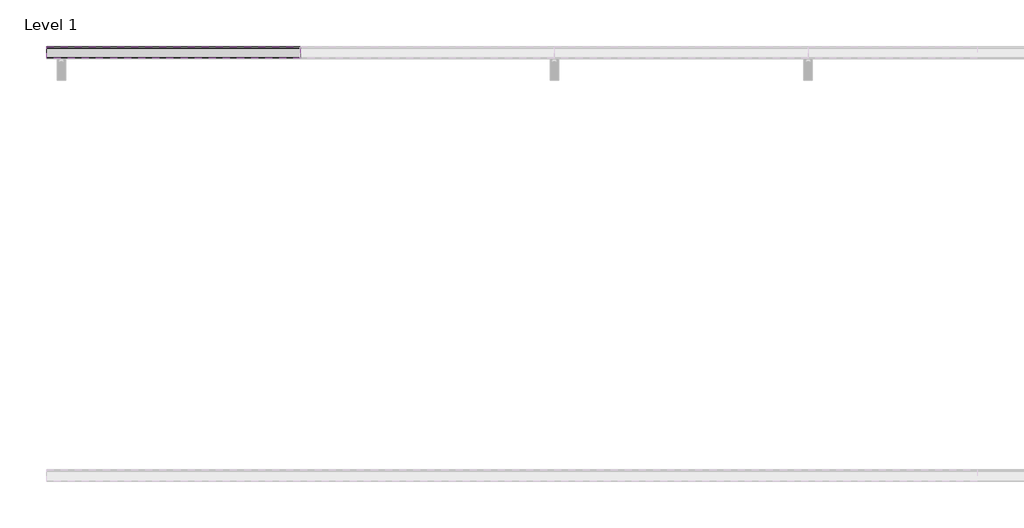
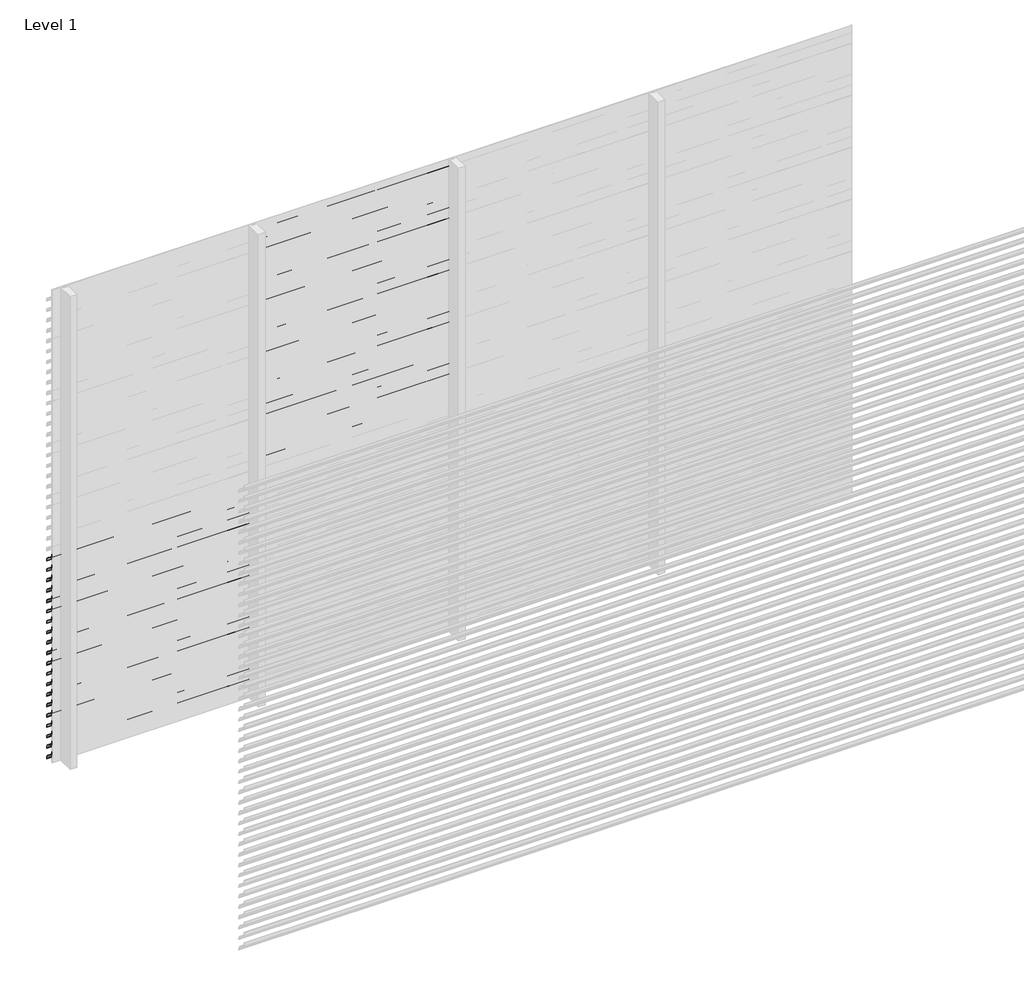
# One storey, part 139 of 540: 43 proxies.
"""IFC4 building model written with IfcOpenShell, lengths in millimetres."""

from ifc_helpers import new_model, si_unit, point, frame, frame_2d, origin, place, context, project, spatial, polyline, circle_curve, trimmed, segment, composite_curve, outline, extrude, element, save

model = new_model("IFC4")

# Units and contexts
model_context = context("Model", 3, world=origin())
ifc_project = project(units=[si_unit("LENGTHUNIT", "METRE", prefix="MILLI")], contexts=[model_context])

# Site, building, storey
site = spatial("IfcSite", under=ifc_project)
building = spatial("IfcBuilding", under=site)
storey = spatial("IfcBuildingStorey", under=building, Name="Level 1", Elevation=0.0)

# Proxies
placement = place(None, origin())
element("IfcBuildingElementProxy", 1, Name="Wall Sweeps", at=placement, inside=storey, context=model_context, shape_type="SweptSolid", body=[
    extrude(outline(composite_curve([segment(trimmed(circle_curve(frame_2d((29013.609548, 1249.7676769)), 26.4944656), [point((29030.5717655, 1270.1205608))], [point((29040.0540136, 1251.3946208))], False, "CARTESIAN"), True, "CONTINUOUS"), segment(polyline([(29040.0540136, 1251.3946208), (29040.0540136, 1243.5), (29038.8040136, 1244.2216933), (29038.8040136, 1249.7676769)]), True, "CONTINUOUS"), segment(trimmed(circle_curve(frame_2d((29013.609548, 1249.7676769)), 25.1944656), [point((29038.8040136, 1249.7676769))], [point((29029.7815085, 1269.086807))], True, "CARTESIAN"), True, "CONTINUOUS"), segment(polyline([(29029.7815085, 1269.086807), (28985.0540136, 1300.3158044), (28985.0540136, 1320.0), (28986.3040136, 1320.0), (28986.3040136, 1301.0285629), (29030.5717655, 1270.1205608)]), True, "CONTINUOUS")], self_intersect=False)), frame((89466.6208097, 0.0, 0.0), z_axis=(1.0, 0.0, 0.0), x_axis=(0.0, 1.0, 0.0)), (0.0, 0.0, 1.0), 1200.0000002),
])
element("IfcBuildingElementProxy", 2, Name="Wall Sweeps", at=placement, inside=storey, context=model_context, shape_type="SweptSolid", body=[
    extrude(outline(composite_curve([segment(trimmed(circle_curve(frame_2d((29013.609548, 1183.7676769)), 26.4944656), [point((29030.5717655, 1204.1205608))], [point((29040.0540136, 1185.3946208))], False, "CARTESIAN"), True, "CONTINUOUS"), segment(polyline([(29040.0540136, 1185.3946208), (29040.0540136, 1177.5), (29038.8040136, 1178.2216933), (29038.8040136, 1183.7676769)]), True, "CONTINUOUS"), segment(trimmed(circle_curve(frame_2d((29013.609548, 1183.7676769)), 25.1944656), [point((29038.8040136, 1183.7676769))], [point((29029.7815085, 1203.086807))], True, "CARTESIAN"), True, "CONTINUOUS"), segment(polyline([(29029.7815085, 1203.086807), (28985.0540136, 1234.3158044), (28985.0540136, 1254.0), (28986.3040136, 1254.0), (28986.3040136, 1235.0285629), (29030.5717655, 1204.1205608)]), True, "CONTINUOUS")], self_intersect=False)), frame((89466.6208097, 0.0, 0.0), z_axis=(1.0, 0.0, 0.0), x_axis=(0.0, 1.0, 0.0)), (0.0, 0.0, 1.0), 1200.0000002),
])
element("IfcBuildingElementProxy", 3, Name="Wall Sweeps", at=placement, inside=storey, context=model_context, shape_type="SweptSolid", body=[
    extrude(outline(composite_curve([segment(trimmed(circle_curve(frame_2d((29013.609548, 1117.7676769)), 26.4944656), [point((29030.5717655, 1138.1205608))], [point((29040.0540136, 1119.3946208))], False, "CARTESIAN"), True, "CONTINUOUS"), segment(polyline([(29040.0540136, 1119.3946208), (29040.0540136, 1111.5), (29038.8040136, 1112.2216933), (29038.8040136, 1117.7676769)]), True, "CONTINUOUS"), segment(trimmed(circle_curve(frame_2d((29013.609548, 1117.7676769)), 25.1944656), [point((29038.8040136, 1117.7676769))], [point((29029.7815085, 1137.086807))], True, "CARTESIAN"), True, "CONTINUOUS"), segment(polyline([(29029.7815085, 1137.086807), (28985.0540136, 1168.3158044), (28985.0540136, 1188.0), (28986.3040136, 1188.0), (28986.3040136, 1169.0285629), (29030.5717655, 1138.1205608)]), True, "CONTINUOUS")], self_intersect=False)), frame((89466.6208097, 0.0, 0.0), z_axis=(1.0, 0.0, 0.0), x_axis=(0.0, 1.0, 0.0)), (0.0, 0.0, 1.0), 1200.0000002),
])
element("IfcBuildingElementProxy", 4, Name="Wall Sweeps", at=placement, inside=storey, context=model_context, shape_type="SweptSolid", body=[
    extrude(outline(composite_curve([segment(trimmed(circle_curve(frame_2d((29013.609548, 1051.7676769)), 26.4944656), [point((29030.5717655, 1072.1205608))], [point((29040.0540136, 1053.3946208))], False, "CARTESIAN"), True, "CONTINUOUS"), segment(polyline([(29040.0540136, 1053.3946208), (29040.0540136, 1045.5), (29038.8040136, 1046.2216933), (29038.8040136, 1051.7676769)]), True, "CONTINUOUS"), segment(trimmed(circle_curve(frame_2d((29013.609548, 1051.7676769)), 25.1944656), [point((29038.8040136, 1051.7676769))], [point((29029.7815085, 1071.086807))], True, "CARTESIAN"), True, "CONTINUOUS"), segment(polyline([(29029.7815085, 1071.086807), (28985.0540136, 1102.3158044), (28985.0540136, 1122.0), (28986.3040136, 1122.0), (28986.3040136, 1103.0285629), (29030.5717655, 1072.1205608)]), True, "CONTINUOUS")], self_intersect=False)), frame((89466.6208097, 0.0, 0.0), z_axis=(1.0, 0.0, 0.0), x_axis=(0.0, 1.0, 0.0)), (0.0, 0.0, 1.0), 1200.0000002),
])
element("IfcBuildingElementProxy", 5, Name="Wall Sweeps", at=placement, inside=storey, context=model_context, shape_type="SweptSolid", body=[
    extrude(outline(composite_curve([segment(trimmed(circle_curve(frame_2d((29013.609548, 985.7676769)), 26.4944656), [point((29030.5717655, 1006.1205608))], [point((29040.0540136, 987.3946208))], False, "CARTESIAN"), True, "CONTINUOUS"), segment(polyline([(29040.0540136, 987.3946208), (29040.0540136, 979.5), (29038.8040136, 980.2216933), (29038.8040136, 985.7676769)]), True, "CONTINUOUS"), segment(trimmed(circle_curve(frame_2d((29013.609548, 985.7676769)), 25.1944656), [point((29038.8040136, 985.7676769))], [point((29029.7815085, 1005.086807))], True, "CARTESIAN"), True, "CONTINUOUS"), segment(polyline([(29029.7815085, 1005.086807), (28985.0540136, 1036.3158044), (28985.0540136, 1056.0), (28986.3040136, 1056.0), (28986.3040136, 1037.0285629), (29030.5717655, 1006.1205608)]), True, "CONTINUOUS")], self_intersect=False)), frame((89466.6208097, 0.0, 0.0), z_axis=(1.0, 0.0, 0.0), x_axis=(0.0, 1.0, 0.0)), (0.0, 0.0, 1.0), 1200.0000002),
])
element("IfcBuildingElementProxy", 6, Name="Wall Sweeps", at=placement, inside=storey, context=model_context, shape_type="SweptSolid", body=[
    extrude(outline(composite_curve([segment(trimmed(circle_curve(frame_2d((29013.609548, 919.7676769)), 26.4944656), [point((29030.5717655, 940.1205608))], [point((29040.0540136, 921.3946208))], False, "CARTESIAN"), True, "CONTINUOUS"), segment(polyline([(29040.0540136, 921.3946208), (29040.0540136, 913.5), (29038.8040136, 914.2216933), (29038.8040136, 919.7676769)]), True, "CONTINUOUS"), segment(trimmed(circle_curve(frame_2d((29013.609548, 919.7676769)), 25.1944656), [point((29038.8040136, 919.7676769))], [point((29029.7815085, 939.086807))], True, "CARTESIAN"), True, "CONTINUOUS"), segment(polyline([(29029.7815085, 939.086807), (28985.0540136, 970.3158044), (28985.0540136, 990.0), (28986.3040136, 990.0), (28986.3040136, 971.0285629), (29030.5717655, 940.1205608)]), True, "CONTINUOUS")], self_intersect=False)), frame((89466.6208097, 0.0, 0.0), z_axis=(1.0, 0.0, 0.0), x_axis=(0.0, 1.0, 0.0)), (0.0, 0.0, 1.0), 1200.0000002),
])
element("IfcBuildingElementProxy", 7, Name="Wall Sweeps", at=placement, inside=storey, context=model_context, shape_type="SweptSolid", body=[
    extrude(outline(composite_curve([segment(trimmed(circle_curve(frame_2d((29013.609548, 853.7676769)), 26.4944656), [point((29030.5717655, 874.1205608))], [point((29040.0540136, 855.3946208))], False, "CARTESIAN"), True, "CONTINUOUS"), segment(polyline([(29040.0540136, 855.3946208), (29040.0540136, 847.5), (29038.8040136, 848.2216933), (29038.8040136, 853.7676769)]), True, "CONTINUOUS"), segment(trimmed(circle_curve(frame_2d((29013.609548, 853.7676769)), 25.1944656), [point((29038.8040136, 853.7676769))], [point((29029.7815085, 873.086807))], True, "CARTESIAN"), True, "CONTINUOUS"), segment(polyline([(29029.7815085, 873.086807), (28985.0540136, 904.3158044), (28985.0540136, 924.0), (28986.3040136, 924.0), (28986.3040136, 905.0285629), (29030.5717655, 874.1205608)]), True, "CONTINUOUS")], self_intersect=False)), frame((89466.6208097, 0.0, 0.0), z_axis=(1.0, 0.0, 0.0), x_axis=(0.0, 1.0, 0.0)), (0.0, 0.0, 1.0), 1200.0000002),
])
element("IfcBuildingElementProxy", 8, Name="Wall Sweeps", at=placement, inside=storey, context=model_context, shape_type="SweptSolid", body=[
    extrude(outline(composite_curve([segment(trimmed(circle_curve(frame_2d((29013.609548, 787.7676769)), 26.4944656), [point((29030.5717655, 808.1205608))], [point((29040.0540136, 789.3946208))], False, "CARTESIAN"), True, "CONTINUOUS"), segment(polyline([(29040.0540136, 789.3946208), (29040.0540136, 781.5), (29038.8040136, 782.2216933), (29038.8040136, 787.7676769)]), True, "CONTINUOUS"), segment(trimmed(circle_curve(frame_2d((29013.609548, 787.7676769)), 25.1944656), [point((29038.8040136, 787.7676769))], [point((29029.7815085, 807.086807))], True, "CARTESIAN"), True, "CONTINUOUS"), segment(polyline([(29029.7815085, 807.086807), (28985.0540136, 838.3158044), (28985.0540136, 858.0), (28986.3040136, 858.0), (28986.3040136, 839.0285629), (29030.5717655, 808.1205608)]), True, "CONTINUOUS")], self_intersect=False)), frame((89466.6208097, 0.0, 0.0), z_axis=(1.0, 0.0, 0.0), x_axis=(0.0, 1.0, 0.0)), (0.0, 0.0, 1.0), 1200.0000002),
])
element("IfcBuildingElementProxy", 9, Name="Wall Sweeps", at=placement, inside=storey, context=model_context, shape_type="SweptSolid", body=[
    extrude(outline(composite_curve([segment(trimmed(circle_curve(frame_2d((29013.609548, 721.7676769)), 26.4944656), [point((29030.5717655, 742.1205608))], [point((29040.0540136, 723.3946208))], False, "CARTESIAN"), True, "CONTINUOUS"), segment(polyline([(29040.0540136, 723.3946208), (29040.0540136, 715.5), (29038.8040136, 716.2216933), (29038.8040136, 721.7676769)]), True, "CONTINUOUS"), segment(trimmed(circle_curve(frame_2d((29013.609548, 721.7676769)), 25.1944656), [point((29038.8040136, 721.7676769))], [point((29029.7815085, 741.086807))], True, "CARTESIAN"), True, "CONTINUOUS"), segment(polyline([(29029.7815085, 741.086807), (28985.0540136, 772.3158044), (28985.0540136, 792.0), (28986.3040136, 792.0), (28986.3040136, 773.0285629), (29030.5717655, 742.1205608)]), True, "CONTINUOUS")], self_intersect=False)), frame((89466.6208097, 0.0, 0.0), z_axis=(1.0, 0.0, 0.0), x_axis=(0.0, 1.0, 0.0)), (0.0, 0.0, 1.0), 1200.0000002),
])
element("IfcBuildingElementProxy", 10, Name="Wall Sweeps", at=placement, inside=storey, context=model_context, shape_type="SweptSolid", body=[
    extrude(outline(composite_curve([segment(trimmed(circle_curve(frame_2d((29013.609548, 655.7676769)), 26.4944656), [point((29030.5717655, 676.1205608))], [point((29040.0540136, 657.3946208))], False, "CARTESIAN"), True, "CONTINUOUS"), segment(polyline([(29040.0540136, 657.3946208), (29040.0540136, 649.5), (29038.8040136, 650.2216933), (29038.8040136, 655.7676769)]), True, "CONTINUOUS"), segment(trimmed(circle_curve(frame_2d((29013.609548, 655.7676769)), 25.1944656), [point((29038.8040136, 655.7676769))], [point((29029.7815085, 675.086807))], True, "CARTESIAN"), True, "CONTINUOUS"), segment(polyline([(29029.7815085, 675.086807), (28985.0540136, 706.3158044), (28985.0540136, 726.0), (28986.3040136, 726.0), (28986.3040136, 707.0285629), (29030.5717655, 676.1205608)]), True, "CONTINUOUS")], self_intersect=False)), frame((89466.6208097, 0.0, 0.0), z_axis=(1.0, 0.0, 0.0), x_axis=(0.0, 1.0, 0.0)), (0.0, 0.0, 1.0), 1200.0000002),
])
element("IfcBuildingElementProxy", 11, Name="Wall Sweeps", at=placement, inside=storey, context=model_context, shape_type="SweptSolid", body=[
    extrude(outline(composite_curve([segment(trimmed(circle_curve(frame_2d((29013.609548, 589.7676769)), 26.4944656), [point((29030.5717655, 610.1205608))], [point((29040.0540136, 591.3946208))], False, "CARTESIAN"), True, "CONTINUOUS"), segment(polyline([(29040.0540136, 591.3946208), (29040.0540136, 583.5), (29038.8040136, 584.2216933), (29038.8040136, 589.7676769)]), True, "CONTINUOUS"), segment(trimmed(circle_curve(frame_2d((29013.609548, 589.7676769)), 25.1944656), [point((29038.8040136, 589.7676769))], [point((29029.7815085, 609.086807))], True, "CARTESIAN"), True, "CONTINUOUS"), segment(polyline([(29029.7815085, 609.086807), (28985.0540136, 640.3158044), (28985.0540136, 660.0), (28986.3040136, 660.0), (28986.3040136, 641.0285629), (29030.5717655, 610.1205608)]), True, "CONTINUOUS")], self_intersect=False)), frame((89466.6208097, 0.0, 0.0), z_axis=(1.0, 0.0, 0.0), x_axis=(0.0, 1.0, 0.0)), (0.0, 0.0, 1.0), 1200.0000002),
])
element("IfcBuildingElementProxy", 12, Name="Wall Sweeps", at=placement, inside=storey, context=model_context, shape_type="SweptSolid", body=[
    extrude(outline(composite_curve([segment(trimmed(circle_curve(frame_2d((29013.609548, 523.7676769)), 26.4944656), [point((29030.5717655, 544.1205608))], [point((29040.0540136, 525.3946208))], False, "CARTESIAN"), True, "CONTINUOUS"), segment(polyline([(29040.0540136, 525.3946208), (29040.0540136, 517.5), (29038.8040136, 518.2216933), (29038.8040136, 523.7676769)]), True, "CONTINUOUS"), segment(trimmed(circle_curve(frame_2d((29013.609548, 523.7676769)), 25.1944656), [point((29038.8040136, 523.7676769))], [point((29029.7815085, 543.086807))], True, "CARTESIAN"), True, "CONTINUOUS"), segment(polyline([(29029.7815085, 543.086807), (28985.0540136, 574.3158044), (28985.0540136, 594.0), (28986.3040136, 594.0), (28986.3040136, 575.0285629), (29030.5717655, 544.1205608)]), True, "CONTINUOUS")], self_intersect=False)), frame((89466.6208097, 0.0, 0.0), z_axis=(1.0, 0.0, 0.0), x_axis=(0.0, 1.0, 0.0)), (0.0, 0.0, 1.0), 1200.0000002),
])
element("IfcBuildingElementProxy", 13, Name="Wall Sweeps", at=placement, inside=storey, context=model_context, shape_type="SweptSolid", body=[
    extrude(outline(composite_curve([segment(trimmed(circle_curve(frame_2d((29013.609548, 457.7676769)), 26.4944656), [point((29030.5717655, 478.1205608))], [point((29040.0540136, 459.3946208))], False, "CARTESIAN"), True, "CONTINUOUS"), segment(polyline([(29040.0540136, 459.3946208), (29040.0540136, 451.5), (29038.8040136, 452.2216933), (29038.8040136, 457.7676769)]), True, "CONTINUOUS"), segment(trimmed(circle_curve(frame_2d((29013.609548, 457.7676769)), 25.1944656), [point((29038.8040136, 457.7676769))], [point((29029.7815085, 477.086807))], True, "CARTESIAN"), True, "CONTINUOUS"), segment(polyline([(29029.7815085, 477.086807), (28985.0540136, 508.3158044), (28985.0540136, 528.0), (28986.3040136, 528.0), (28986.3040136, 509.0285629), (29030.5717655, 478.1205608)]), True, "CONTINUOUS")], self_intersect=False)), frame((89466.6208097, 0.0, 0.0), z_axis=(1.0, 0.0, 0.0), x_axis=(0.0, 1.0, 0.0)), (0.0, 0.0, 1.0), 1200.0000002),
])
element("IfcBuildingElementProxy", 14, Name="Wall Sweeps", at=placement, inside=storey, context=model_context, shape_type="SweptSolid", body=[
    extrude(outline(composite_curve([segment(trimmed(circle_curve(frame_2d((29013.609548, 391.7676769)), 26.4944656), [point((29030.5717655, 412.1205608))], [point((29040.0540136, 393.3946208))], False, "CARTESIAN"), True, "CONTINUOUS"), segment(polyline([(29040.0540136, 393.3946208), (29040.0540136, 385.5), (29038.8040136, 386.2216933), (29038.8040136, 391.7676769)]), True, "CONTINUOUS"), segment(trimmed(circle_curve(frame_2d((29013.609548, 391.7676769)), 25.1944656), [point((29038.8040136, 391.7676769))], [point((29029.7815085, 411.086807))], True, "CARTESIAN"), True, "CONTINUOUS"), segment(polyline([(29029.7815085, 411.086807), (28985.0540136, 442.3158044), (28985.0540136, 462.0), (28986.3040136, 462.0), (28986.3040136, 443.0285629), (29030.5717655, 412.1205608)]), True, "CONTINUOUS")], self_intersect=False)), frame((89466.6208097, 0.0, 0.0), z_axis=(1.0, 0.0, 0.0), x_axis=(0.0, 1.0, 0.0)), (0.0, 0.0, 1.0), 1200.0000002),
])
element("IfcBuildingElementProxy", 15, Name="Wall Sweeps", at=placement, inside=storey, context=model_context, shape_type="SweptSolid", body=[
    extrude(outline(composite_curve([segment(trimmed(circle_curve(frame_2d((29013.609548, 325.7676769)), 26.4944656), [point((29030.5717655, 346.1205608))], [point((29040.0540136, 327.3946208))], False, "CARTESIAN"), True, "CONTINUOUS"), segment(polyline([(29040.0540136, 327.3946208), (29040.0540136, 319.5), (29038.8040136, 320.2216933), (29038.8040136, 325.7676769)]), True, "CONTINUOUS"), segment(trimmed(circle_curve(frame_2d((29013.609548, 325.7676769)), 25.1944656), [point((29038.8040136, 325.7676769))], [point((29029.7815085, 345.086807))], True, "CARTESIAN"), True, "CONTINUOUS"), segment(polyline([(29029.7815085, 345.086807), (28985.0540136, 376.3158044), (28985.0540136, 396.0), (28986.3040136, 396.0), (28986.3040136, 377.0285629), (29030.5717655, 346.1205608)]), True, "CONTINUOUS")], self_intersect=False)), frame((89466.6208097, 0.0, 0.0), z_axis=(1.0, 0.0, 0.0), x_axis=(0.0, 1.0, 0.0)), (0.0, 0.0, 1.0), 1200.0000002),
])
element("IfcBuildingElementProxy", 16, Name="Wall Sweeps", at=placement, inside=storey, context=model_context, shape_type="SweptSolid", body=[
    extrude(outline(composite_curve([segment(trimmed(circle_curve(frame_2d((29013.609548, 259.7676769)), 26.4944656), [point((29030.5717655, 280.1205608))], [point((29040.0540136, 261.3946208))], False, "CARTESIAN"), True, "CONTINUOUS"), segment(polyline([(29040.0540136, 261.3946208), (29040.0540136, 253.5), (29038.8040136, 254.2216933), (29038.8040136, 259.7676769)]), True, "CONTINUOUS"), segment(trimmed(circle_curve(frame_2d((29013.609548, 259.7676769)), 25.1944656), [point((29038.8040136, 259.7676769))], [point((29029.7815085, 279.086807))], True, "CARTESIAN"), True, "CONTINUOUS"), segment(polyline([(29029.7815085, 279.086807), (28985.0540136, 310.3158044), (28985.0540136, 330.0), (28986.3040136, 330.0), (28986.3040136, 311.0285629), (29030.5717655, 280.1205608)]), True, "CONTINUOUS")], self_intersect=False)), frame((89466.6208097, 0.0, 0.0), z_axis=(1.0, 0.0, 0.0), x_axis=(0.0, 1.0, 0.0)), (0.0, 0.0, 1.0), 1200.0000002),
])
element("IfcBuildingElementProxy", 17, Name="Wall Sweeps", at=placement, inside=storey, context=model_context, shape_type="SweptSolid", body=[
    extrude(outline(composite_curve([segment(trimmed(circle_curve(frame_2d((29013.609548, 193.7676769)), 26.4944656), [point((29030.5717655, 214.1205608))], [point((29040.0540136, 195.3946208))], False, "CARTESIAN"), True, "CONTINUOUS"), segment(polyline([(29040.0540136, 195.3946208), (29040.0540136, 187.5), (29038.8040136, 188.2216933), (29038.8040136, 193.7676769)]), True, "CONTINUOUS"), segment(trimmed(circle_curve(frame_2d((29013.609548, 193.7676769)), 25.1944656), [point((29038.8040136, 193.7676769))], [point((29029.7815085, 213.086807))], True, "CARTESIAN"), True, "CONTINUOUS"), segment(polyline([(29029.7815085, 213.086807), (28985.0540136, 244.3158044), (28985.0540136, 264.0), (28986.3040136, 264.0), (28986.3040136, 245.0285629), (29030.5717655, 214.1205608)]), True, "CONTINUOUS")], self_intersect=False)), frame((89466.6208097, 0.0, 0.0), z_axis=(1.0, 0.0, 0.0), x_axis=(0.0, 1.0, 0.0)), (0.0, 0.0, 1.0), 1200.0000002),
])
element("IfcBuildingElementProxy", 18, Name="Wall Sweeps", at=placement, inside=storey, context=model_context, shape_type="SweptSolid", body=[
    extrude(outline(composite_curve([segment(trimmed(circle_curve(frame_2d((29013.609548, 127.7676769)), 26.4944656), [point((29030.5717655, 148.1205608))], [point((29040.0540136, 129.3946208))], False, "CARTESIAN"), True, "CONTINUOUS"), segment(polyline([(29040.0540136, 129.3946208), (29040.0540136, 121.5), (29038.8040136, 122.2216933), (29038.8040136, 127.7676769)]), True, "CONTINUOUS"), segment(trimmed(circle_curve(frame_2d((29013.609548, 127.7676769)), 25.1944656), [point((29038.8040136, 127.7676769))], [point((29029.7815085, 147.086807))], True, "CARTESIAN"), True, "CONTINUOUS"), segment(polyline([(29029.7815085, 147.086807), (28985.0540136, 178.3158044), (28985.0540136, 198.0), (28986.3040136, 198.0), (28986.3040136, 179.0285629), (29030.5717655, 148.1205608)]), True, "CONTINUOUS")], self_intersect=False)), frame((89466.6208097, 0.0, 0.0), z_axis=(1.0, 0.0, 0.0), x_axis=(0.0, 1.0, 0.0)), (0.0, 0.0, 1.0), 1200.0000002),
])
element("IfcBuildingElementProxy", 19, Name="Wall Sweeps", at=placement, inside=storey, context=model_context, shape_type="SweptSolid", body=[
    extrude(outline(composite_curve([segment(trimmed(circle_curve(frame_2d((29013.609548, 61.7676769)), 26.4944656), [point((29030.5717655, 82.1205608))], [point((29040.0540136, 63.3946208))], False, "CARTESIAN"), True, "CONTINUOUS"), segment(polyline([(29040.0540136, 63.3946208), (29040.0540136, 55.5), (29038.8040136, 56.2216933), (29038.8040136, 61.7676769)]), True, "CONTINUOUS"), segment(trimmed(circle_curve(frame_2d((29013.609548, 61.7676769)), 25.1944656), [point((29038.8040136, 61.7676769))], [point((29029.7815085, 81.086807))], True, "CARTESIAN"), True, "CONTINUOUS"), segment(polyline([(29029.7815085, 81.086807), (28985.0540136, 112.3158044), (28985.0540136, 132.0), (28986.3040136, 132.0), (28986.3040136, 113.0285629), (29030.5717655, 82.1205608)]), True, "CONTINUOUS")], self_intersect=False)), frame((89466.6208097, 0.0, 0.0), z_axis=(1.0, 0.0, 0.0), x_axis=(0.0, 1.0, 0.0)), (0.0, 0.0, 1.0), 1200.0000002),
])
element("IfcBuildingElementProxy", 20, Name="Wall Sweeps", at=placement, inside=storey, context=model_context, shape_type="SweptSolid", body=[
    extrude(outline(composite_curve([segment(trimmed(circle_curve(frame_2d((29013.609548, -4.2323231)), 26.4944656), [point((29030.5717655, 16.1205608))], [point((29040.0540136, -2.6053792))], False, "CARTESIAN"), True, "CONTINUOUS"), segment(polyline([(29040.0540136, -2.6053792), (29040.0540136, -10.5), (29038.8040136, -9.7783067), (29038.8040136, -4.2323231)]), True, "CONTINUOUS"), segment(trimmed(circle_curve(frame_2d((29013.609548, -4.2323231)), 25.1944656), [point((29038.8040136, -4.2323231))], [point((29029.7815085, 15.086807))], True, "CARTESIAN"), True, "CONTINUOUS"), segment(polyline([(29029.7815085, 15.086807), (28985.0540136, 46.3158044), (28985.0540136, 66.0), (28986.3040136, 66.0), (28986.3040136, 47.0285629), (29030.5717655, 16.1205608)]), True, "CONTINUOUS")], self_intersect=False)), frame((89466.6208097, 0.0, 0.0), z_axis=(1.0, 0.0, 0.0), x_axis=(0.0, 1.0, 0.0)), (0.0, 0.0, 1.0), 1200.0000002),
])
element("IfcBuildingElementProxy", 21, Name="Wall Sweeps", at=placement, inside=storey, context=model_context, shape_type="SweptSolid", body=[
    extrude(outline(composite_curve([segment(trimmed(circle_curve(frame_2d((29013.609548, 2899.7676769)), 26.4944656), [point((29030.5717655, 2920.1205608))], [point((29040.0540136, 2901.3946208))], False, "CARTESIAN"), True, "CONTINUOUS"), segment(polyline([(29040.0540136, 2901.3946208), (29040.0540136, 2893.5), (29038.8040136, 2894.2216933), (29038.8040136, 2899.7676769)]), True, "CONTINUOUS"), segment(trimmed(circle_curve(frame_2d((29013.609548, 2899.7676769)), 25.1944656), [point((29038.8040136, 2899.7676769))], [point((29029.7815085, 2919.086807))], True, "CARTESIAN"), True, "CONTINUOUS"), segment(polyline([(29029.7815085, 2919.086807), (28985.0540136, 2950.3158044), (28985.0540136, 2970.0), (28986.3040136, 2970.0), (28986.3040136, 2951.0285629), (29030.5717655, 2920.1205608)]), True, "CONTINUOUS")], self_intersect=False)), frame((90666.6208099, 0.0, 0.0), z_axis=(1.0, 0.0, 0.0), x_axis=(0.0, 1.0, 0.0)), (0.0, 0.0, 1.0), 1199.9999999),
])
element("IfcBuildingElementProxy", 22, Name="Wall Sweeps", at=placement, inside=storey, context=model_context, shape_type="SweptSolid", body=[
    extrude(outline(composite_curve([segment(trimmed(circle_curve(frame_2d((29013.609548, 2833.7676769)), 26.4944656), [point((29030.5717655, 2854.1205608))], [point((29040.0540136, 2835.3946208))], False, "CARTESIAN"), True, "CONTINUOUS"), segment(polyline([(29040.0540136, 2835.3946208), (29040.0540136, 2827.5), (29038.8040136, 2828.2216933), (29038.8040136, 2833.7676769)]), True, "CONTINUOUS"), segment(trimmed(circle_curve(frame_2d((29013.609548, 2833.7676769)), 25.1944656), [point((29038.8040136, 2833.7676769))], [point((29029.7815085, 2853.086807))], True, "CARTESIAN"), True, "CONTINUOUS"), segment(polyline([(29029.7815085, 2853.086807), (28985.0540136, 2884.3158044), (28985.0540136, 2904.0), (28986.3040136, 2904.0), (28986.3040136, 2885.0285629), (29030.5717655, 2854.1205608)]), True, "CONTINUOUS")], self_intersect=False)), frame((90666.6208099, 0.0, 0.0), z_axis=(1.0, 0.0, 0.0), x_axis=(0.0, 1.0, 0.0)), (0.0, 0.0, 1.0), 1199.9999999),
])
element("IfcBuildingElementProxy", 23, Name="Wall Sweeps", at=placement, inside=storey, context=model_context, shape_type="SweptSolid", body=[
    extrude(outline(composite_curve([segment(trimmed(circle_curve(frame_2d((29013.609548, 2767.7676769)), 26.4944656), [point((29030.5717655, 2788.1205608))], [point((29040.0540136, 2769.3946208))], False, "CARTESIAN"), True, "CONTINUOUS"), segment(polyline([(29040.0540136, 2769.3946208), (29040.0540136, 2761.5), (29038.8040136, 2762.2216933), (29038.8040136, 2767.7676769)]), True, "CONTINUOUS"), segment(trimmed(circle_curve(frame_2d((29013.609548, 2767.7676769)), 25.1944656), [point((29038.8040136, 2767.7676769))], [point((29029.7815085, 2787.086807))], True, "CARTESIAN"), True, "CONTINUOUS"), segment(polyline([(29029.7815085, 2787.086807), (28985.0540136, 2818.3158044), (28985.0540136, 2838.0), (28986.3040136, 2838.0), (28986.3040136, 2819.0285629), (29030.5717655, 2788.1205608)]), True, "CONTINUOUS")], self_intersect=False)), frame((90666.6208099, 0.0, 0.0), z_axis=(1.0, 0.0, 0.0), x_axis=(0.0, 1.0, 0.0)), (0.0, 0.0, 1.0), 1199.9999999),
])
element("IfcBuildingElementProxy", 24, Name="Wall Sweeps", at=placement, inside=storey, context=model_context, shape_type="SweptSolid", body=[
    extrude(outline(composite_curve([segment(trimmed(circle_curve(frame_2d((29013.609548, 2701.7676769)), 26.4944656), [point((29030.5717655, 2722.1205608))], [point((29040.0540136, 2703.3946208))], False, "CARTESIAN"), True, "CONTINUOUS"), segment(polyline([(29040.0540136, 2703.3946208), (29040.0540136, 2695.5), (29038.8040136, 2696.2216933), (29038.8040136, 2701.7676769)]), True, "CONTINUOUS"), segment(trimmed(circle_curve(frame_2d((29013.609548, 2701.7676769)), 25.1944656), [point((29038.8040136, 2701.7676769))], [point((29029.7815085, 2721.086807))], True, "CARTESIAN"), True, "CONTINUOUS"), segment(polyline([(29029.7815085, 2721.086807), (28985.0540136, 2752.3158044), (28985.0540136, 2772.0), (28986.3040136, 2772.0), (28986.3040136, 2753.0285629), (29030.5717655, 2722.1205608)]), True, "CONTINUOUS")], self_intersect=False)), frame((90666.6208099, 0.0, 0.0), z_axis=(1.0, 0.0, 0.0), x_axis=(0.0, 1.0, 0.0)), (0.0, 0.0, 1.0), 1199.9999999),
])
element("IfcBuildingElementProxy", 25, Name="Wall Sweeps", at=placement, inside=storey, context=model_context, shape_type="SweptSolid", body=[
    extrude(outline(composite_curve([segment(trimmed(circle_curve(frame_2d((29013.609548, 2635.7676769)), 26.4944656), [point((29030.5717655, 2656.1205608))], [point((29040.0540136, 2637.3946208))], False, "CARTESIAN"), True, "CONTINUOUS"), segment(polyline([(29040.0540136, 2637.3946208), (29040.0540136, 2629.5), (29038.8040136, 2630.2216933), (29038.8040136, 2635.7676769)]), True, "CONTINUOUS"), segment(trimmed(circle_curve(frame_2d((29013.609548, 2635.7676769)), 25.1944656), [point((29038.8040136, 2635.7676769))], [point((29029.7815085, 2655.086807))], True, "CARTESIAN"), True, "CONTINUOUS"), segment(polyline([(29029.7815085, 2655.086807), (28985.0540136, 2686.3158044), (28985.0540136, 2706.0), (28986.3040136, 2706.0), (28986.3040136, 2687.0285629), (29030.5717655, 2656.1205608)]), True, "CONTINUOUS")], self_intersect=False)), frame((90666.6208099, 0.0, 0.0), z_axis=(1.0, 0.0, 0.0), x_axis=(0.0, 1.0, 0.0)), (0.0, 0.0, 1.0), 1199.9999999),
])
element("IfcBuildingElementProxy", 26, Name="Wall Sweeps", at=placement, inside=storey, context=model_context, shape_type="SweptSolid", body=[
    extrude(outline(composite_curve([segment(trimmed(circle_curve(frame_2d((29013.609548, 2569.7676769)), 26.4944656), [point((29030.5717655, 2590.1205608))], [point((29040.0540136, 2571.3946208))], False, "CARTESIAN"), True, "CONTINUOUS"), segment(polyline([(29040.0540136, 2571.3946208), (29040.0540136, 2563.5), (29038.8040136, 2564.2216933), (29038.8040136, 2569.7676769)]), True, "CONTINUOUS"), segment(trimmed(circle_curve(frame_2d((29013.609548, 2569.7676769)), 25.1944656), [point((29038.8040136, 2569.7676769))], [point((29029.7815085, 2589.086807))], True, "CARTESIAN"), True, "CONTINUOUS"), segment(polyline([(29029.7815085, 2589.086807), (28985.0540136, 2620.3158044), (28985.0540136, 2640.0), (28986.3040136, 2640.0), (28986.3040136, 2621.0285629), (29030.5717655, 2590.1205608)]), True, "CONTINUOUS")], self_intersect=False)), frame((90666.6208099, 0.0, 0.0), z_axis=(1.0, 0.0, 0.0), x_axis=(0.0, 1.0, 0.0)), (0.0, 0.0, 1.0), 1199.9999999),
])
element("IfcBuildingElementProxy", 27, Name="Wall Sweeps", at=placement, inside=storey, context=model_context, shape_type="SweptSolid", body=[
    extrude(outline(composite_curve([segment(trimmed(circle_curve(frame_2d((29013.609548, 2503.7676769)), 26.4944656), [point((29030.5717655, 2524.1205608))], [point((29040.0540136, 2505.3946208))], False, "CARTESIAN"), True, "CONTINUOUS"), segment(polyline([(29040.0540136, 2505.3946208), (29040.0540136, 2497.5), (29038.8040136, 2498.2216933), (29038.8040136, 2503.7676769)]), True, "CONTINUOUS"), segment(trimmed(circle_curve(frame_2d((29013.609548, 2503.7676769)), 25.1944656), [point((29038.8040136, 2503.7676769))], [point((29029.7815085, 2523.086807))], True, "CARTESIAN"), True, "CONTINUOUS"), segment(polyline([(29029.7815085, 2523.086807), (28985.0540136, 2554.3158044), (28985.0540136, 2574.0), (28986.3040136, 2574.0), (28986.3040136, 2555.0285629), (29030.5717655, 2524.1205608)]), True, "CONTINUOUS")], self_intersect=False)), frame((90666.6208099, 0.0, 0.0), z_axis=(1.0, 0.0, 0.0), x_axis=(0.0, 1.0, 0.0)), (0.0, 0.0, 1.0), 1199.9999999),
])
element("IfcBuildingElementProxy", 28, Name="Wall Sweeps", at=placement, inside=storey, context=model_context, shape_type="SweptSolid", body=[
    extrude(outline(composite_curve([segment(trimmed(circle_curve(frame_2d((29013.609548, 2437.7676769)), 26.4944656), [point((29030.5717655, 2458.1205608))], [point((29040.0540136, 2439.3946208))], False, "CARTESIAN"), True, "CONTINUOUS"), segment(polyline([(29040.0540136, 2439.3946208), (29040.0540136, 2431.5), (29038.8040136, 2432.2216933), (29038.8040136, 2437.7676769)]), True, "CONTINUOUS"), segment(trimmed(circle_curve(frame_2d((29013.609548, 2437.7676769)), 25.1944656), [point((29038.8040136, 2437.7676769))], [point((29029.7815085, 2457.086807))], True, "CARTESIAN"), True, "CONTINUOUS"), segment(polyline([(29029.7815085, 2457.086807), (28985.0540136, 2488.3158044), (28985.0540136, 2508.0), (28986.3040136, 2508.0), (28986.3040136, 2489.0285629), (29030.5717655, 2458.1205608)]), True, "CONTINUOUS")], self_intersect=False)), frame((90666.6208099, 0.0, 0.0), z_axis=(1.0, 0.0, 0.0), x_axis=(0.0, 1.0, 0.0)), (0.0, 0.0, 1.0), 1199.9999999),
])
element("IfcBuildingElementProxy", 29, Name="Wall Sweeps", at=placement, inside=storey, context=model_context, shape_type="SweptSolid", body=[
    extrude(outline(composite_curve([segment(trimmed(circle_curve(frame_2d((29013.609548, 2371.7676769)), 26.4944656), [point((29030.5717655, 2392.1205608))], [point((29040.0540136, 2373.3946208))], False, "CARTESIAN"), True, "CONTINUOUS"), segment(polyline([(29040.0540136, 2373.3946208), (29040.0540136, 2365.5), (29038.8040136, 2366.2216933), (29038.8040136, 2371.7676769)]), True, "CONTINUOUS"), segment(trimmed(circle_curve(frame_2d((29013.609548, 2371.7676769)), 25.1944656), [point((29038.8040136, 2371.7676769))], [point((29029.7815085, 2391.086807))], True, "CARTESIAN"), True, "CONTINUOUS"), segment(polyline([(29029.7815085, 2391.086807), (28985.0540136, 2422.3158044), (28985.0540136, 2442.0), (28986.3040136, 2442.0), (28986.3040136, 2423.0285629), (29030.5717655, 2392.1205608)]), True, "CONTINUOUS")], self_intersect=False)), frame((90666.6208099, 0.0, 0.0), z_axis=(1.0, 0.0, 0.0), x_axis=(0.0, 1.0, 0.0)), (0.0, 0.0, 1.0), 1199.9999999),
])
element("IfcBuildingElementProxy", 30, Name="Wall Sweeps", at=placement, inside=storey, context=model_context, shape_type="SweptSolid", body=[
    extrude(outline(composite_curve([segment(trimmed(circle_curve(frame_2d((29013.609548, 2305.7676769)), 26.4944656), [point((29030.5717655, 2326.1205608))], [point((29040.0540136, 2307.3946208))], False, "CARTESIAN"), True, "CONTINUOUS"), segment(polyline([(29040.0540136, 2307.3946208), (29040.0540136, 2299.5), (29038.8040136, 2300.2216933), (29038.8040136, 2305.7676769)]), True, "CONTINUOUS"), segment(trimmed(circle_curve(frame_2d((29013.609548, 2305.7676769)), 25.1944656), [point((29038.8040136, 2305.7676769))], [point((29029.7815085, 2325.086807))], True, "CARTESIAN"), True, "CONTINUOUS"), segment(polyline([(29029.7815085, 2325.086807), (28985.0540136, 2356.3158044), (28985.0540136, 2376.0), (28986.3040136, 2376.0), (28986.3040136, 2357.0285629), (29030.5717655, 2326.1205608)]), True, "CONTINUOUS")], self_intersect=False)), frame((90666.6208099, 0.0, 0.0), z_axis=(1.0, 0.0, 0.0), x_axis=(0.0, 1.0, 0.0)), (0.0, 0.0, 1.0), 1199.9999999),
])
element("IfcBuildingElementProxy", 31, Name="Wall Sweeps", at=placement, inside=storey, context=model_context, shape_type="SweptSolid", body=[
    extrude(outline(composite_curve([segment(trimmed(circle_curve(frame_2d((29013.609548, 2239.7676769)), 26.4944656), [point((29030.5717655, 2260.1205608))], [point((29040.0540136, 2241.3946208))], False, "CARTESIAN"), True, "CONTINUOUS"), segment(polyline([(29040.0540136, 2241.3946208), (29040.0540136, 2233.5), (29038.8040136, 2234.2216933), (29038.8040136, 2239.7676769)]), True, "CONTINUOUS"), segment(trimmed(circle_curve(frame_2d((29013.609548, 2239.7676769)), 25.1944656), [point((29038.8040136, 2239.7676769))], [point((29029.7815085, 2259.086807))], True, "CARTESIAN"), True, "CONTINUOUS"), segment(polyline([(29029.7815085, 2259.086807), (28985.0540136, 2290.3158044), (28985.0540136, 2310.0), (28986.3040136, 2310.0), (28986.3040136, 2291.0285629), (29030.5717655, 2260.1205608)]), True, "CONTINUOUS")], self_intersect=False)), frame((90666.6208099, 0.0, 0.0), z_axis=(1.0, 0.0, 0.0), x_axis=(0.0, 1.0, 0.0)), (0.0, 0.0, 1.0), 1199.9999999),
])
element("IfcBuildingElementProxy", 32, Name="Wall Sweeps", at=placement, inside=storey, context=model_context, shape_type="SweptSolid", body=[
    extrude(outline(composite_curve([segment(trimmed(circle_curve(frame_2d((29013.609548, 2173.7676769)), 26.4944656), [point((29030.5717655, 2194.1205608))], [point((29040.0540136, 2175.3946208))], False, "CARTESIAN"), True, "CONTINUOUS"), segment(polyline([(29040.0540136, 2175.3946208), (29040.0540136, 2167.5), (29038.8040136, 2168.2216933), (29038.8040136, 2173.7676769)]), True, "CONTINUOUS"), segment(trimmed(circle_curve(frame_2d((29013.609548, 2173.7676769)), 25.1944656), [point((29038.8040136, 2173.7676769))], [point((29029.7815085, 2193.086807))], True, "CARTESIAN"), True, "CONTINUOUS"), segment(polyline([(29029.7815085, 2193.086807), (28985.0540136, 2224.3158044), (28985.0540136, 2244.0), (28986.3040136, 2244.0), (28986.3040136, 2225.0285629), (29030.5717655, 2194.1205608)]), True, "CONTINUOUS")], self_intersect=False)), frame((90666.6208099, 0.0, 0.0), z_axis=(1.0, 0.0, 0.0), x_axis=(0.0, 1.0, 0.0)), (0.0, 0.0, 1.0), 1199.9999999),
])
element("IfcBuildingElementProxy", 33, Name="Wall Sweeps", at=placement, inside=storey, context=model_context, shape_type="SweptSolid", body=[
    extrude(outline(composite_curve([segment(trimmed(circle_curve(frame_2d((29013.609548, 2107.7676769)), 26.4944656), [point((29030.5717655, 2128.1205608))], [point((29040.0540136, 2109.3946208))], False, "CARTESIAN"), True, "CONTINUOUS"), segment(polyline([(29040.0540136, 2109.3946208), (29040.0540136, 2101.5), (29038.8040136, 2102.2216933), (29038.8040136, 2107.7676769)]), True, "CONTINUOUS"), segment(trimmed(circle_curve(frame_2d((29013.609548, 2107.7676769)), 25.1944656), [point((29038.8040136, 2107.7676769))], [point((29029.7815085, 2127.086807))], True, "CARTESIAN"), True, "CONTINUOUS"), segment(polyline([(29029.7815085, 2127.086807), (28985.0540136, 2158.3158044), (28985.0540136, 2178.0), (28986.3040136, 2178.0), (28986.3040136, 2159.0285629), (29030.5717655, 2128.1205608)]), True, "CONTINUOUS")], self_intersect=False)), frame((90666.6208099, 0.0, 0.0), z_axis=(1.0, 0.0, 0.0), x_axis=(0.0, 1.0, 0.0)), (0.0, 0.0, 1.0), 1199.9999999),
])
element("IfcBuildingElementProxy", 34, Name="Wall Sweeps", at=placement, inside=storey, context=model_context, shape_type="SweptSolid", body=[
    extrude(outline(composite_curve([segment(trimmed(circle_curve(frame_2d((29013.609548, 2041.7676769)), 26.4944656), [point((29030.5717655, 2062.1205608))], [point((29040.0540136, 2043.3946208))], False, "CARTESIAN"), True, "CONTINUOUS"), segment(polyline([(29040.0540136, 2043.3946208), (29040.0540136, 2035.5), (29038.8040136, 2036.2216933), (29038.8040136, 2041.7676769)]), True, "CONTINUOUS"), segment(trimmed(circle_curve(frame_2d((29013.609548, 2041.7676769)), 25.1944656), [point((29038.8040136, 2041.7676769))], [point((29029.7815085, 2061.086807))], True, "CARTESIAN"), True, "CONTINUOUS"), segment(polyline([(29029.7815085, 2061.086807), (28985.0540136, 2092.3158044), (28985.0540136, 2112.0), (28986.3040136, 2112.0), (28986.3040136, 2093.0285629), (29030.5717655, 2062.1205608)]), True, "CONTINUOUS")], self_intersect=False)), frame((90666.6208099, 0.0, 0.0), z_axis=(1.0, 0.0, 0.0), x_axis=(0.0, 1.0, 0.0)), (0.0, 0.0, 1.0), 1199.9999999),
])
element("IfcBuildingElementProxy", 35, Name="Wall Sweeps", at=placement, inside=storey, context=model_context, shape_type="SweptSolid", body=[
    extrude(outline(composite_curve([segment(trimmed(circle_curve(frame_2d((29013.609548, 1975.7676769)), 26.4944656), [point((29030.5717655, 1996.1205608))], [point((29040.0540136, 1977.3946208))], False, "CARTESIAN"), True, "CONTINUOUS"), segment(polyline([(29040.0540136, 1977.3946208), (29040.0540136, 1969.5), (29038.8040136, 1970.2216933), (29038.8040136, 1975.7676769)]), True, "CONTINUOUS"), segment(trimmed(circle_curve(frame_2d((29013.609548, 1975.7676769)), 25.1944656), [point((29038.8040136, 1975.7676769))], [point((29029.7815085, 1995.086807))], True, "CARTESIAN"), True, "CONTINUOUS"), segment(polyline([(29029.7815085, 1995.086807), (28985.0540136, 2026.3158044), (28985.0540136, 2046.0), (28986.3040136, 2046.0), (28986.3040136, 2027.0285629), (29030.5717655, 1996.1205608)]), True, "CONTINUOUS")], self_intersect=False)), frame((90666.6208099, 0.0, 0.0), z_axis=(1.0, 0.0, 0.0), x_axis=(0.0, 1.0, 0.0)), (0.0, 0.0, 1.0), 1199.9999999),
])
element("IfcBuildingElementProxy", 36, Name="Wall Sweeps", at=placement, inside=storey, context=model_context, shape_type="SweptSolid", body=[
    extrude(outline(composite_curve([segment(trimmed(circle_curve(frame_2d((29013.609548, 1909.7676769)), 26.4944656), [point((29030.5717655, 1930.1205608))], [point((29040.0540136, 1911.3946208))], False, "CARTESIAN"), True, "CONTINUOUS"), segment(polyline([(29040.0540136, 1911.3946208), (29040.0540136, 1903.5), (29038.8040136, 1904.2216933), (29038.8040136, 1909.7676769)]), True, "CONTINUOUS"), segment(trimmed(circle_curve(frame_2d((29013.609548, 1909.7676769)), 25.1944656), [point((29038.8040136, 1909.7676769))], [point((29029.7815085, 1929.086807))], True, "CARTESIAN"), True, "CONTINUOUS"), segment(polyline([(29029.7815085, 1929.086807), (28985.0540136, 1960.3158044), (28985.0540136, 1980.0), (28986.3040136, 1980.0), (28986.3040136, 1961.0285629), (29030.5717655, 1930.1205608)]), True, "CONTINUOUS")], self_intersect=False)), frame((90666.6208099, 0.0, 0.0), z_axis=(1.0, 0.0, 0.0), x_axis=(0.0, 1.0, 0.0)), (0.0, 0.0, 1.0), 1199.9999999),
])
element("IfcBuildingElementProxy", 37, Name="Wall Sweeps", at=placement, inside=storey, context=model_context, shape_type="SweptSolid", body=[
    extrude(outline(composite_curve([segment(trimmed(circle_curve(frame_2d((29013.609548, 1843.7676769)), 26.4944656), [point((29030.5717655, 1864.1205608))], [point((29040.0540136, 1845.3946208))], False, "CARTESIAN"), True, "CONTINUOUS"), segment(polyline([(29040.0540136, 1845.3946208), (29040.0540136, 1837.5), (29038.8040136, 1838.2216933), (29038.8040136, 1843.7676769)]), True, "CONTINUOUS"), segment(trimmed(circle_curve(frame_2d((29013.609548, 1843.7676769)), 25.1944656), [point((29038.8040136, 1843.7676769))], [point((29029.7815085, 1863.086807))], True, "CARTESIAN"), True, "CONTINUOUS"), segment(polyline([(29029.7815085, 1863.086807), (28985.0540136, 1894.3158044), (28985.0540136, 1914.0), (28986.3040136, 1914.0), (28986.3040136, 1895.0285629), (29030.5717655, 1864.1205608)]), True, "CONTINUOUS")], self_intersect=False)), frame((90666.6208099, 0.0, 0.0), z_axis=(1.0, 0.0, 0.0), x_axis=(0.0, 1.0, 0.0)), (0.0, 0.0, 1.0), 1199.9999999),
])
element("IfcBuildingElementProxy", 38, Name="Wall Sweeps", at=placement, inside=storey, context=model_context, shape_type="SweptSolid", body=[
    extrude(outline(composite_curve([segment(trimmed(circle_curve(frame_2d((29013.609548, 1777.7676769)), 26.4944656), [point((29030.5717655, 1798.1205608))], [point((29040.0540136, 1779.3946208))], False, "CARTESIAN"), True, "CONTINUOUS"), segment(polyline([(29040.0540136, 1779.3946208), (29040.0540136, 1771.5), (29038.8040136, 1772.2216933), (29038.8040136, 1777.7676769)]), True, "CONTINUOUS"), segment(trimmed(circle_curve(frame_2d((29013.609548, 1777.7676769)), 25.1944656), [point((29038.8040136, 1777.7676769))], [point((29029.7815085, 1797.086807))], True, "CARTESIAN"), True, "CONTINUOUS"), segment(polyline([(29029.7815085, 1797.086807), (28985.0540136, 1828.3158044), (28985.0540136, 1848.0), (28986.3040136, 1848.0), (28986.3040136, 1829.0285629), (29030.5717655, 1798.1205608)]), True, "CONTINUOUS")], self_intersect=False)), frame((90666.6208099, 0.0, 0.0), z_axis=(1.0, 0.0, 0.0), x_axis=(0.0, 1.0, 0.0)), (0.0, 0.0, 1.0), 1199.9999999),
])
element("IfcBuildingElementProxy", 39, Name="Wall Sweeps", at=placement, inside=storey, context=model_context, shape_type="SweptSolid", body=[
    extrude(outline(composite_curve([segment(trimmed(circle_curve(frame_2d((29013.609548, 1711.7676769)), 26.4944656), [point((29030.5717655, 1732.1205608))], [point((29040.0540136, 1713.3946208))], False, "CARTESIAN"), True, "CONTINUOUS"), segment(polyline([(29040.0540136, 1713.3946208), (29040.0540136, 1705.5), (29038.8040136, 1706.2216933), (29038.8040136, 1711.7676769)]), True, "CONTINUOUS"), segment(trimmed(circle_curve(frame_2d((29013.609548, 1711.7676769)), 25.1944656), [point((29038.8040136, 1711.7676769))], [point((29029.7815085, 1731.086807))], True, "CARTESIAN"), True, "CONTINUOUS"), segment(polyline([(29029.7815085, 1731.086807), (28985.0540136, 1762.3158044), (28985.0540136, 1782.0), (28986.3040136, 1782.0), (28986.3040136, 1763.0285629), (29030.5717655, 1732.1205608)]), True, "CONTINUOUS")], self_intersect=False)), frame((90666.6208099, 0.0, 0.0), z_axis=(1.0, 0.0, 0.0), x_axis=(0.0, 1.0, 0.0)), (0.0, 0.0, 1.0), 1199.9999999),
])
element("IfcBuildingElementProxy", 40, Name="Wall Sweeps", at=placement, inside=storey, context=model_context, shape_type="SweptSolid", body=[
    extrude(outline(composite_curve([segment(trimmed(circle_curve(frame_2d((29013.609548, 1645.7676769)), 26.4944656), [point((29030.5717655, 1666.1205608))], [point((29040.0540136, 1647.3946208))], False, "CARTESIAN"), True, "CONTINUOUS"), segment(polyline([(29040.0540136, 1647.3946208), (29040.0540136, 1639.5), (29038.8040136, 1640.2216933), (29038.8040136, 1645.7676769)]), True, "CONTINUOUS"), segment(trimmed(circle_curve(frame_2d((29013.609548, 1645.7676769)), 25.1944656), [point((29038.8040136, 1645.7676769))], [point((29029.7815085, 1665.086807))], True, "CARTESIAN"), True, "CONTINUOUS"), segment(polyline([(29029.7815085, 1665.086807), (28985.0540136, 1696.3158044), (28985.0540136, 1716.0), (28986.3040136, 1716.0), (28986.3040136, 1697.0285629), (29030.5717655, 1666.1205608)]), True, "CONTINUOUS")], self_intersect=False)), frame((90666.6208099, 0.0, 0.0), z_axis=(1.0, 0.0, 0.0), x_axis=(0.0, 1.0, 0.0)), (0.0, 0.0, 1.0), 1199.9999999),
])
element("IfcBuildingElementProxy", 41, Name="Wall Sweeps", at=placement, inside=storey, context=model_context, shape_type="SweptSolid", body=[
    extrude(outline(composite_curve([segment(trimmed(circle_curve(frame_2d((29013.609548, 1579.7676769)), 26.4944656), [point((29030.5717655, 1600.1205608))], [point((29040.0540136, 1581.3946208))], False, "CARTESIAN"), True, "CONTINUOUS"), segment(polyline([(29040.0540136, 1581.3946208), (29040.0540136, 1573.5), (29038.8040136, 1574.2216933), (29038.8040136, 1579.7676769)]), True, "CONTINUOUS"), segment(trimmed(circle_curve(frame_2d((29013.609548, 1579.7676769)), 25.1944656), [point((29038.8040136, 1579.7676769))], [point((29029.7815085, 1599.086807))], True, "CARTESIAN"), True, "CONTINUOUS"), segment(polyline([(29029.7815085, 1599.086807), (28985.0540136, 1630.3158044), (28985.0540136, 1650.0), (28986.3040136, 1650.0), (28986.3040136, 1631.0285629), (29030.5717655, 1600.1205608)]), True, "CONTINUOUS")], self_intersect=False)), frame((90666.6208099, 0.0, 0.0), z_axis=(1.0, 0.0, 0.0), x_axis=(0.0, 1.0, 0.0)), (0.0, 0.0, 1.0), 1199.9999999),
])
element("IfcBuildingElementProxy", 42, Name="Wall Sweeps", at=placement, inside=storey, context=model_context, shape_type="SweptSolid", body=[
    extrude(outline(composite_curve([segment(trimmed(circle_curve(frame_2d((29013.609548, 1513.7676769)), 26.4944656), [point((29030.5717655, 1534.1205608))], [point((29040.0540136, 1515.3946208))], False, "CARTESIAN"), True, "CONTINUOUS"), segment(polyline([(29040.0540136, 1515.3946208), (29040.0540136, 1507.5), (29038.8040136, 1508.2216933), (29038.8040136, 1513.7676769)]), True, "CONTINUOUS"), segment(trimmed(circle_curve(frame_2d((29013.609548, 1513.7676769)), 25.1944656), [point((29038.8040136, 1513.7676769))], [point((29029.7815085, 1533.086807))], True, "CARTESIAN"), True, "CONTINUOUS"), segment(polyline([(29029.7815085, 1533.086807), (28985.0540136, 1564.3158044), (28985.0540136, 1584.0), (28986.3040136, 1584.0), (28986.3040136, 1565.0285629), (29030.5717655, 1534.1205608)]), True, "CONTINUOUS")], self_intersect=False)), frame((90666.6208099, 0.0, 0.0), z_axis=(1.0, 0.0, 0.0), x_axis=(0.0, 1.0, 0.0)), (0.0, 0.0, 1.0), 1199.9999999),
])
element("IfcBuildingElementProxy", 43, Name="Wall Sweeps", at=placement, inside=storey, context=model_context, shape_type="SweptSolid", body=[
    extrude(outline(composite_curve([segment(trimmed(circle_curve(frame_2d((29013.609548, 1447.7676769)), 26.4944656), [point((29030.5717655, 1468.1205608))], [point((29040.0540136, 1449.3946208))], False, "CARTESIAN"), True, "CONTINUOUS"), segment(polyline([(29040.0540136, 1449.3946208), (29040.0540136, 1441.5), (29038.8040136, 1442.2216933), (29038.8040136, 1447.7676769)]), True, "CONTINUOUS"), segment(trimmed(circle_curve(frame_2d((29013.609548, 1447.7676769)), 25.1944656), [point((29038.8040136, 1447.7676769))], [point((29029.7815085, 1467.086807))], True, "CARTESIAN"), True, "CONTINUOUS"), segment(polyline([(29029.7815085, 1467.086807), (28985.0540136, 1498.3158044), (28985.0540136, 1518.0), (28986.3040136, 1518.0), (28986.3040136, 1499.0285629), (29030.5717655, 1468.1205608)]), True, "CONTINUOUS")], self_intersect=False)), frame((90666.6208099, 0.0, 0.0), z_axis=(1.0, 0.0, 0.0), x_axis=(0.0, 1.0, 0.0)), (0.0, 0.0, 1.0), 1199.9999999),
])

save(model, "model.ifc")
